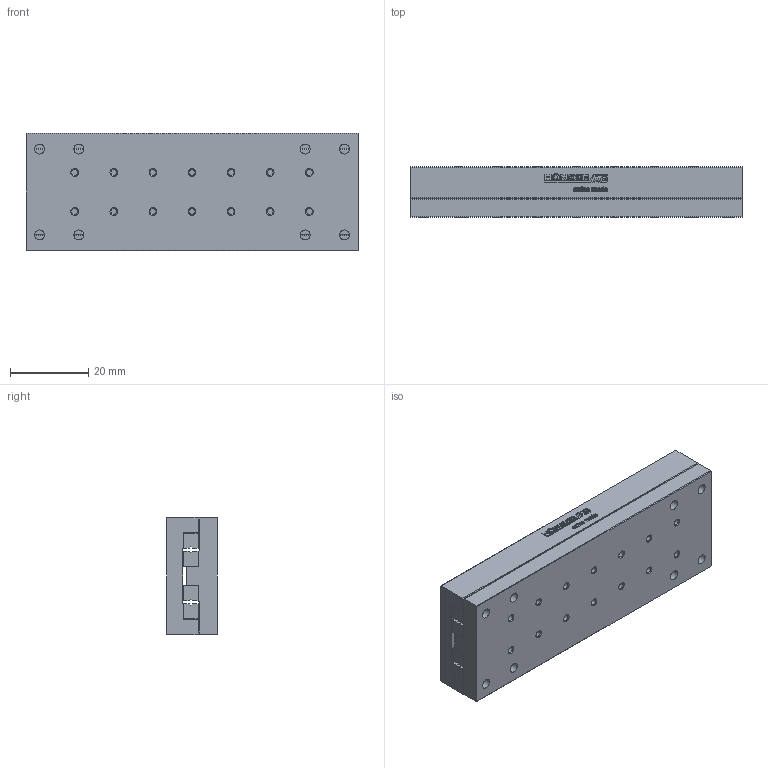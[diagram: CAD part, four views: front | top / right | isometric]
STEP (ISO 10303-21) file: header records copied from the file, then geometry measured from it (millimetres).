
FILE_DESCRIPTION(/* description */ ('STEP AP214'),/* implementation_level */ '2;1');
FILE_NAME(/* name */ 'NKL 1-85(0)',/* time_stamp */ '2025-04-23T07:56:36+02:00',/* author */ ('License CC BY-ND 4.0'),/* organization */ ('CADENAS'),/* preprocessor_version */ 'ST-DEVELOPER v19.3',/* originating_system */ 'PARTsolutions',/* authorisation */ ' ');
FILE_SCHEMA (('AUTOMOTIVE_DESIGN {1 0 10303 214 3 1 1}'));
Length unit declared in the file: millimetre
Products named in the file (3): NKL 1-85(0); NKL 1-85_1; NKL 1-85_2
Assembly tree (2 placements, depth 2):
  NKL 1-85(0)
    NKL 1-85_1
    NKL 1-85_2
Bounding box: 85 x 13 x 30 mm (x, y, z)
Volume: 31369.1 mm3; surface area: 18204.9 mm2
Topology: 2 solids, 2 shells, 695 faces, 1842 edges, 1204 vertices
Faces by surface type: cylinder 336, plane 303, cone 56
Full cylindrical faces by diameter (mm): 1.567 x28, 2.55 x8, 4.3 x8
Entity records: 21371 total; most frequent: DIRECTION 3866, CARTESIAN_POINT 3644, ORIENTED_EDGE 3484, EDGE_CURVE 1742, AXIS2_PLACEMENT_3D 1426, VERTEX_POINT 1204, LINE 1014, VECTOR 1014
